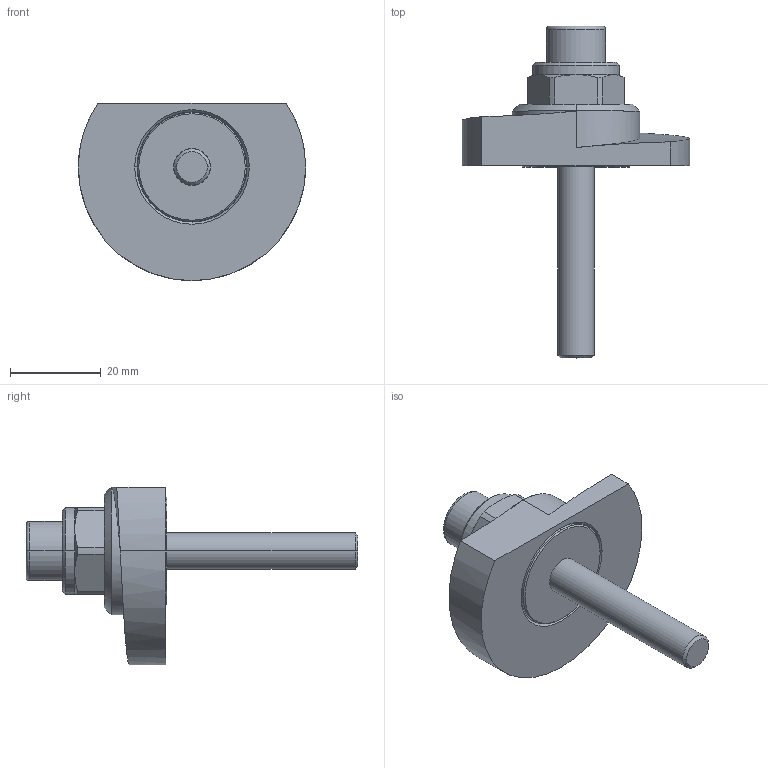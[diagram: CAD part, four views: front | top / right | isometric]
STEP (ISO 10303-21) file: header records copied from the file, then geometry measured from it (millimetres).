
FILE_DESCRIPTION (( 'STEP AP214' ), '1' );
FILE_NAME ('918.1-50-SKS-R-42.step', '2024-05-15T13:03:16', ( '' ), ( '' ), 'SwSTEP 2.0', 'SolidWorks 2022', '' );
FILE_SCHEMA (( 'AUTOMOTIVE_DESIGN' ));
Length unit declared in the file: millimetre
Products named in the file (1): 918.1-50-SKS-R-42
Bounding box: 50 x 73 x 39 mm (x, y, z)
Volume: 22202.8 mm3; surface area: 9383.8 mm2
Topology: 1 solids, 2 shells, 77 faces, 175 edges, 110 vertices
Faces by surface type: cylinder 25, plane 25, cone 22, bspline 3, torus 2
Entity records: 2547 total; most frequent: CARTESIAN_POINT 772, DIRECTION 379, ORIENTED_EDGE 350, EDGE_CURVE 175, AXIS2_PLACEMENT_3D 152, VERTEX_POINT 110, EDGE_LOOP 87, FACE_OUTER_BOUND 77
